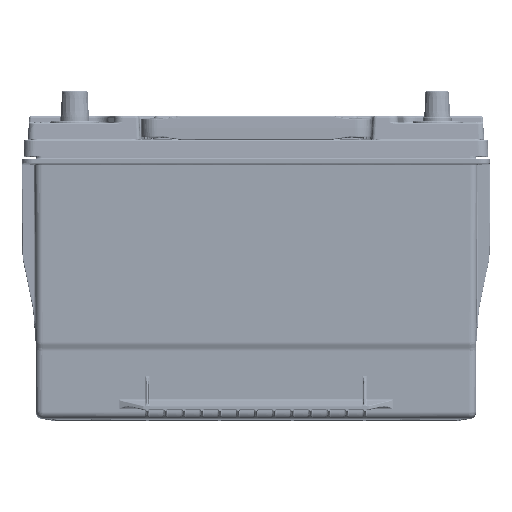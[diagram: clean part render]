
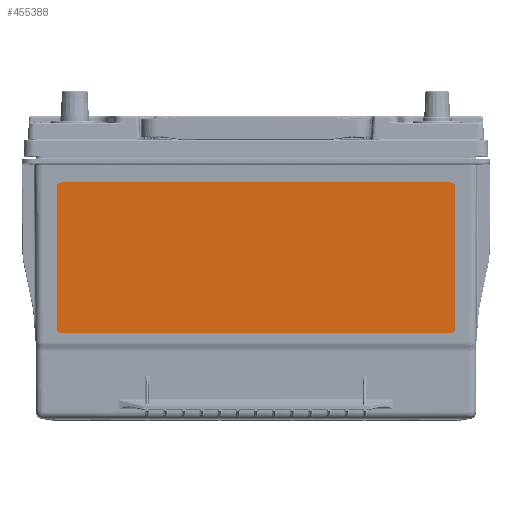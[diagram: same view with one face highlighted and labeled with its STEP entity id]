
A CAD part, top view. The second image highlights one B-rep face of the part: STEP entity #455388.
In plain terms, the highlighted planar face has unit normal (0, -0.003, 1).
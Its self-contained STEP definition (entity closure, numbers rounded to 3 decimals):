
#16769 = DIRECTION ( 'NONE',  ( -1., 0., 0. ) ) ;
#17194 = ORIENTED_EDGE ( 'NONE', *, *, #40882, .T. ) ;
#22704 = VERTEX_POINT ( 'NONE', #111661 ) ;
#26786 = CARTESIAN_POINT ( 'NONE',  ( -5.175, -4.632, 3.225 ) ) ;
#40882 = EDGE_CURVE ( 'NONE', #127933, #173236, #350974, .T. ) ;
#42502 = EDGE_CURVE ( 'NONE', #173236, #229176, #170497, .T. ) ;
#43222 = CIRCLE ( 'NONE', #480701, 0.125 ) ;
#49008 = ORIENTED_EDGE ( 'NONE', *, *, #87815, .T. ) ;
#62110 = CARTESIAN_POINT ( 'NONE',  ( -5.3, -4.507, 3.226 ) ) ;
#71455 = DIRECTION ( 'NONE',  ( 1., 0., 0. ) ) ;
#71659 = DIRECTION ( 'NONE',  ( -1., 0., 0. ) ) ;
#87815 = EDGE_CURVE ( 'NONE', #223846, #499400, #518224, .T. ) ;
#95735 = DIRECTION ( 'NONE',  ( 0., 0.003, -1. ) ) ;
#98558 = AXIS2_PLACEMENT_3D ( 'NONE', #334465, #200933, #495302 ) ;
#100883 = CARTESIAN_POINT ( 'NONE',  ( -5.3, -0.757, 3.235 ) ) ;
#100898 = FACE_OUTER_BOUND ( 'NONE', #361028, .T. ) ;
#111661 = CARTESIAN_POINT ( 'NONE',  ( -5.175, -4.632, 3.225 ) ) ;
#114373 = VECTOR ( 'NONE', #240797, 39.37 ) ;
#123721 = CIRCLE ( 'NONE', #98558, 0.125 ) ;
#127933 = VERTEX_POINT ( 'NONE', #408262 ) ;
#132920 = ORIENTED_EDGE ( 'NONE', *, *, #204145, .T. ) ;
#137826 = DIRECTION ( 'NONE',  ( -1., 0., 0. ) ) ;
#145483 = CARTESIAN_POINT ( 'NONE',  ( -5.175, -0.632, 3.236 ) ) ;
#154356 = VERTEX_POINT ( 'NONE', #62110 ) ;
#170497 = CIRCLE ( 'NONE', #499011, 0.125 ) ;
#173236 = VERTEX_POINT ( 'NONE', #428868 ) ;
#187586 = DIRECTION ( 'NONE',  ( -1., 0., 0. ) ) ;
#200933 = DIRECTION ( 'NONE',  ( 0., -0.003, 1. ) ) ;
#204145 = EDGE_CURVE ( 'NONE', #499400, #127933, #43222, .T. ) ;
#223052 = ORIENTED_EDGE ( 'NONE', *, *, #268731, .T. ) ;
#223846 = VERTEX_POINT ( 'NONE', #509256 ) ;
#229176 = VERTEX_POINT ( 'NONE', #100883 ) ;
#230471 = CARTESIAN_POINT ( 'NONE',  ( -5.3, -0.757, 3.235 ) ) ;
#231774 = CARTESIAN_POINT ( 'NONE',  ( -5.175, -0.757, 3.235 ) ) ;
#240797 = DIRECTION ( 'NONE',  ( 0., -1., -0.003 ) ) ;
#242778 = CARTESIAN_POINT ( 'NONE',  ( 5.175, -4.632, 3.225 ) ) ;
#261546 = PLANE ( 'NONE',  #520234 ) ;
#265360 = EDGE_CURVE ( 'NONE', #22704, #493304, #266443, .T. ) ;
#266443 = LINE ( 'NONE', #26786, #365689 ) ;
#268717 = DIRECTION ( 'NONE',  ( 0., -0.003, 1. ) ) ;
#268731 = EDGE_CURVE ( 'NONE', #154356, #22704, #123721, .T. ) ;
#276185 = DIRECTION ( 'NONE',  ( -1., 0., 0. ) ) ;
#281362 = CARTESIAN_POINT ( 'NONE',  ( 5.175, -4.507, 3.226 ) ) ;
#283979 = ORIENTED_EDGE ( 'NONE', *, *, #42502, .T. ) ;
#295927 = CARTESIAN_POINT ( 'NONE',  ( 5.175, -0.757, 3.235 ) ) ;
#316692 = EDGE_CURVE ( 'NONE', #493304, #223846, #365692, .T. ) ;
#334465 = CARTESIAN_POINT ( 'NONE',  ( -5.175, -4.507, 3.226 ) ) ;
#338235 = ORIENTED_EDGE ( 'NONE', *, *, #498312, .T. ) ;
#340430 = AXIS2_PLACEMENT_3D ( 'NONE', #281362, #479157, #276185 ) ;
#350974 = LINE ( 'NONE', #145483, #410787 ) ;
#351694 = LINE ( 'NONE', #230471, #114373 ) ;
#361028 = EDGE_LOOP ( 'NONE', ( #132920, #17194, #283979, #338235, #223052, #365116, #405838, #49008 ) ) ;
#365116 = ORIENTED_EDGE ( 'NONE', *, *, #265360, .T. ) ;
#365689 = VECTOR ( 'NONE', #71455, 39.37 ) ;
#365692 = CIRCLE ( 'NONE', #340430, 0.125 ) ;
#395655 = CARTESIAN_POINT ( 'NONE',  ( 5.175, -0.757, 3.235 ) ) ;
#405838 = ORIENTED_EDGE ( 'NONE', *, *, #316692, .T. ) ;
#408262 = CARTESIAN_POINT ( 'NONE',  ( 5.175, -0.632, 3.236 ) ) ;
#410787 = VECTOR ( 'NONE', #71659, 39.37 ) ;
#428773 = CARTESIAN_POINT ( 'NONE',  ( 5.3, -0.757, 3.235 ) ) ;
#428868 = CARTESIAN_POINT ( 'NONE',  ( -5.175, -0.632, 3.236 ) ) ;
#455388 = ADVANCED_FACE ( 'NONE', ( #100898 ), #261546, .F. ) ;
#478202 = CARTESIAN_POINT ( 'NONE',  ( 5.3, -0.757, 3.235 ) ) ;
#479157 = DIRECTION ( 'NONE',  ( 0., -0.003, 1. ) ) ;
#480701 = AXIS2_PLACEMENT_3D ( 'NONE', #395655, #516863, #187586 ) ;
#493304 = VERTEX_POINT ( 'NONE', #242778 ) ;
#495302 = DIRECTION ( 'NONE',  ( -1., 0., 0. ) ) ;
#498312 = EDGE_CURVE ( 'NONE', #229176, #154356, #351694, .T. ) ;
#499011 = AXIS2_PLACEMENT_3D ( 'NONE', #231774, #268717, #16769 ) ;
#499400 = VERTEX_POINT ( 'NONE', #478202 ) ;
#509256 = CARTESIAN_POINT ( 'NONE',  ( 5.3, -4.507, 3.226 ) ) ;
#510488 = DIRECTION ( 'NONE',  ( 0., 1., 0.003 ) ) ;
#516288 = VECTOR ( 'NONE', #510488, 39.37 ) ;
#516863 = DIRECTION ( 'NONE',  ( 0., -0.003, 1. ) ) ;
#518224 = LINE ( 'NONE', #428773, #516288 ) ;
#520234 = AXIS2_PLACEMENT_3D ( 'NONE', #295927, #95735, #137826 ) ;
